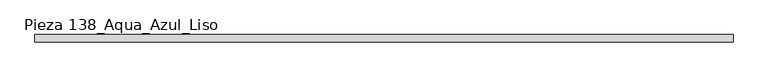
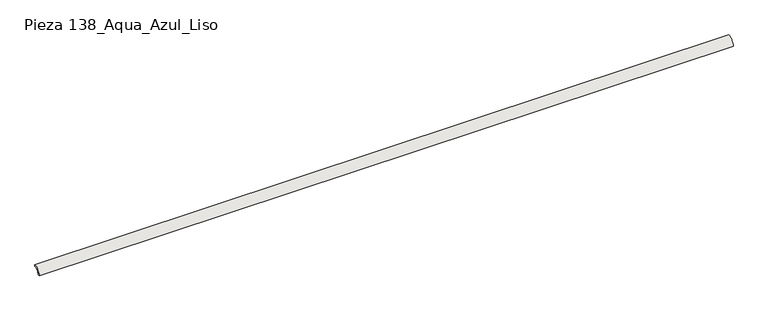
"""IFC4 building model written with IfcOpenShell, lengths in millimetres: slab geometry, ROSA GRES_138 : Pieza 138_Aqua_Azul_Liso."""

from ifc_helpers import new_model, si_unit, point, frame, frame_2d, origin, origin_2d, place, context, project, spatial, polyline, circle_curve, trimmed, segment, composite_curve, outline, extrude, source, transform, mapped, element, save


def pieza_138_aqua_azul_liso_665a89ac(model_context):
    return source(origin(), model_context, "Body", "SweptSolid", [
        extrude(outline(composite_curve([segment(polyline([(0.0, 40.0), (0.0, 30.0265886)]), True, "CONTINUOUS"), segment(trimmed(circle_curve(frame_2d((-0.0044453, 0.0044453)), 30.0221435), [point((0.0, 30.0265886))], [point((-30.0265886, 0.0))], True, "CARTESIAN"), True, "CONTINUOUS"), segment(polyline([(-30.0265886, 0.0), (-40.0, 0.0)]), True, "CONTINUOUS"), segment(trimmed(circle_curve(origin_2d(), 40.0), [point((-40.0, 0.0))], [point((0.0, 40.0))], False, "CARTESIAN"), True, "CONTINUOUS")], self_intersect=False)), frame((0.0, 0.0, 0.0), z_axis=(1.0, 0.0, 0.0), x_axis=(0.0, 1.0, 0.0)), (0.0, 0.0, 1.0), 3761.7794671),
    ])


if __name__ == "__main__":
    model = new_model("IFC4")
    model_context = context("Model", 3, world=origin())
    ifc_project = project(units=[si_unit("LENGTHUNIT", "METRE", prefix="MILLI")], contexts=[model_context])
    site = spatial("IfcSite", under=ifc_project)
    building = spatial("IfcBuilding", under=site)
    placement = place(None, origin())
    pieza_138_aqua_azul_liso_shape = pieza_138_aqua_azul_liso_665a89ac(model_context)
    element("IfcSlab", 1, ObjectType="ROSA GRES_138 : Pieza 138_Aqua_Azul_Liso", at=placement, inside=building, context=model_context, shape_type="MappedRepresentation", body=[
        mapped(pieza_138_aqua_azul_liso_shape, transform((0.0, 0.0, 0.0), x_axis=(1.0, 0.0, 0.0), y_axis=(0.0, 1.0, 0.0), z_axis=(0.0, 0.0, 1.0))),
    ])
    save(model, "model.ifc")
